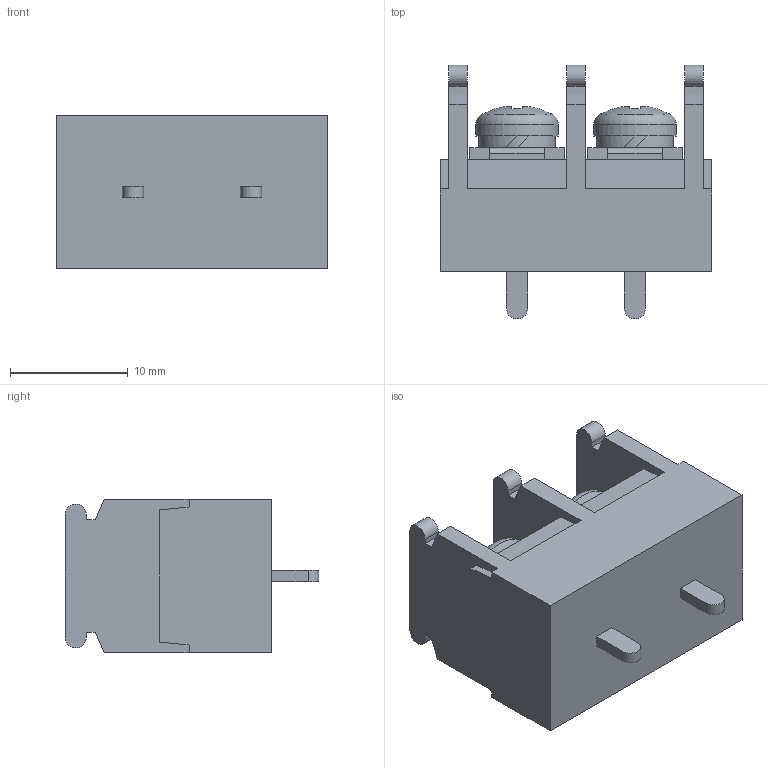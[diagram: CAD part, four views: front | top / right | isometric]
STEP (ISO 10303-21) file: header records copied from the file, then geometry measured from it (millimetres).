
FILE_DESCRIPTION(/* description */ ('Alibre Inc.'),/* implementation_level */ '2;1');
FILE_NAME(/* name */ 'export0',/* time_stamp */ '2015-10-17T18:03:13+09:00',/* author */ (''),/* organization */ (''),/* preprocessor_version */ 'ST-DEVELOPER v14',/* originating_system */ 'Alibre',/* authorisation */ '');
FILE_SCHEMA (('CONFIG_CONTROL_DESIGN'));
Length unit declared in the file: centimetre
Products named in the file (1): ID_1
Bounding box: 23 x 21.5 x 13 mm (x, y, z)
Volume: 3580.3 mm3; surface area: 2328.6 mm2
Topology: 1 solids, 17 shells, 530 faces, 1404 edges, 934 vertices
Faces by surface type: plane 394, bspline 104, cylinder 18, cone 8, torus 4, sphere 2
Full cylindrical faces by diameter (mm): 4 x2, 6.5 x2, 7 x2
Entity records: 15923 total; most frequent: CARTESIAN_POINT 3835, ORIENTED_EDGE 2780, DIRECTION 1706, EDGE_CURVE 1390, VECTOR 1074, LINE 1074, VERTEX_POINT 928, EDGE_LOOP 576
